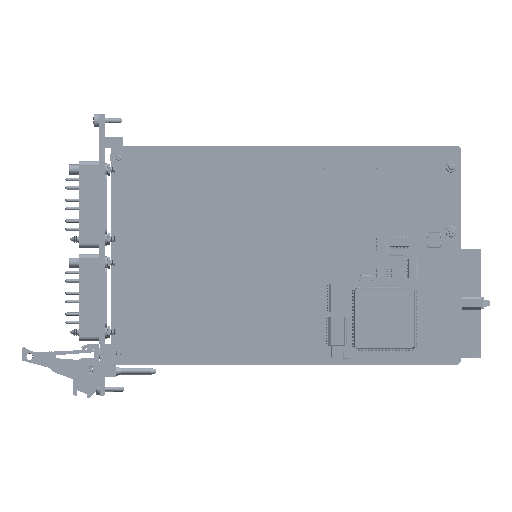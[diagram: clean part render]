
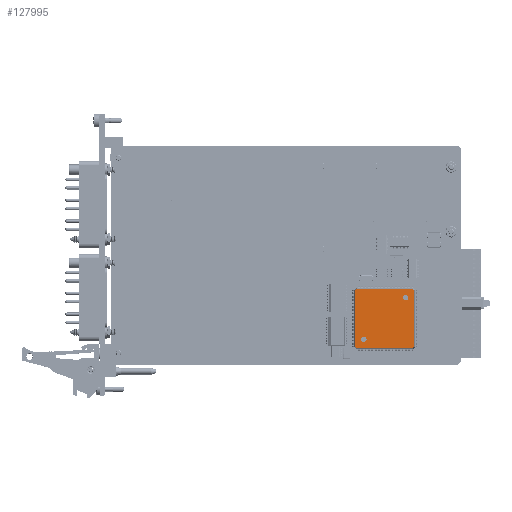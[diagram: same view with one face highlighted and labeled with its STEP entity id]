
A CAD part, top view. The second image highlights one B-rep face of the part: STEP entity #127995.
In plain terms, the highlighted planar face has unit normal (0, 0, 1) as drawn and (0, 1, 0) by its records, which use the part's own axes.
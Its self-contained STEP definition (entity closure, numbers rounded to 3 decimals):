
#423 = CARTESIAN_POINT ( 'NONE',  ( 12.811, 1.7, 13.544 ) ) ;
#5040 = LINE ( 'NONE', #25691, #137467 ) ;
#5469 = CARTESIAN_POINT ( 'NONE',  ( -9.544, 1.7, 9.544 ) ) ;
#8455 = CIRCLE ( 'NONE', #164589, 1.249 ) ;
#8738 = DIRECTION ( 'NONE',  ( -0.707, 0., -0.707 ) ) ;
#12822 = CARTESIAN_POINT ( 'NONE',  ( 12.811, 1.7, -13.544 ) ) ;
#21239 = EDGE_CURVE ( 'NONE', #208349, #300458, #138402, .T. ) ;
#24651 = VECTOR ( 'NONE', #39162, 1000. ) ;
#25691 = CARTESIAN_POINT ( 'NONE',  ( -12.678, 1.7, -13.678 ) ) ;
#30927 = LINE ( 'NONE', #267638, #102795 ) ;
#32675 = DIRECTION ( 'NONE',  ( 0., -1., 0. ) ) ;
#33377 = VERTEX_POINT ( 'NONE', #12822 ) ;
#39162 = DIRECTION ( 'NONE',  ( 0., 0., 1. ) ) ;
#39905 = VECTOR ( 'NONE', #92392, 1000. ) ;
#42830 = CARTESIAN_POINT ( 'NONE',  ( 13.544, 1.7, 13. ) ) ;
#44269 = VERTEX_POINT ( 'NONE', #192512 ) ;
#44353 = LINE ( 'NONE', #42830, #260480 ) ;
#46629 = CARTESIAN_POINT ( 'NONE',  ( 9.544, 1.7, -8.294 ) ) ;
#47967 = AXIS2_PLACEMENT_3D ( 'NONE', #244477, #58319, #222374 ) ;
#48586 = PLANE ( 'NONE',  #69998 ) ;
#48915 = CARTESIAN_POINT ( 'NONE',  ( -9.544, 1.7, 9.544 ) ) ;
#49797 = DIRECTION ( 'NONE',  ( 0., -1., 0. ) ) ;
#51701 = CARTESIAN_POINT ( 'NONE',  ( 27., 1.7, 0. ) ) ;
#53013 = LINE ( 'NONE', #130096, #137494 ) ;
#56969 = AXIS2_PLACEMENT_3D ( 'NONE', #223548, #32675, #296181 ) ;
#57776 = LINE ( 'NONE', #202819, #59654 ) ;
#58319 = DIRECTION ( 'NONE',  ( 0., -1., 0. ) ) ;
#59450 = LINE ( 'NONE', #207620, #281574 ) ;
#59531 = ORIENTED_EDGE ( 'NONE', *, *, #291844, .T. ) ;
#59654 = VECTOR ( 'NONE', #105008, 1000. ) ;
#61860 = CIRCLE ( 'NONE', #243531, 1.249 ) ;
#66857 = ORIENTED_EDGE ( 'NONE', *, *, #128279, .T. ) ;
#69998 = AXIS2_PLACEMENT_3D ( 'NONE', #51701, #147799, #312055 ) ;
#70588 = EDGE_LOOP ( 'NONE', ( #59531, #252560, #161524, #285905, #66857, #187227, #230771, #190384 ) ) ;
#83093 = EDGE_LOOP ( 'NONE', ( #108838, #250548 ) ) ;
#90570 = VERTEX_POINT ( 'NONE', #92260 ) ;
#92260 = CARTESIAN_POINT ( 'NONE',  ( -9.544, 1.7, 8.296 ) ) ;
#92392 = DIRECTION ( 'NONE',  ( 0.707, 0., 0.707 ) ) ;
#93988 = EDGE_CURVE ( 'NONE', #109710, #307433, #53013, .T. ) ;
#94301 = FACE_BOUND ( 'NONE', #83093, .T. ) ;
#97713 = DIRECTION ( 'NONE',  ( 0., -1., 0. ) ) ;
#98958 = FACE_OUTER_BOUND ( 'NONE', #70588, .T. ) ;
#101713 = DIRECTION ( 'NONE',  ( 0., 0., -1. ) ) ;
#102795 = VECTOR ( 'NONE', #8738, 1000. ) ;
#105008 = DIRECTION ( 'NONE',  ( 0.707, 0., -0.707 ) ) ;
#108838 = ORIENTED_EDGE ( 'NONE', *, *, #158661, .T. ) ;
#109710 = VERTEX_POINT ( 'NONE', #279030 ) ;
#111083 = CARTESIAN_POINT ( 'NONE',  ( 9.544, 1.7, -10.794 ) ) ;
#114724 = CARTESIAN_POINT ( 'NONE',  ( -13.544, 1.7, 13. ) ) ;
#114781 = ORIENTED_EDGE ( 'NONE', *, *, #126912, .T. ) ;
#116035 = LINE ( 'NONE', #212259, #39905 ) ;
#120484 = EDGE_CURVE ( 'NONE', #123177, #208349, #5040, .T. ) ;
#123177 = VERTEX_POINT ( 'NONE', #157014 ) ;
#125428 = DIRECTION ( 'NONE',  ( 1., 0., 0. ) ) ;
#126912 = EDGE_CURVE ( 'NONE', #250996, #90570, #8455, .T. ) ;
#127995 = ADVANCED_FACE ( 'NONE', ( #310514, #98958, #94301 ), #48586, .T. ) ;
#128279 = EDGE_CURVE ( 'NONE', #300458, #109710, #116035, .T. ) ;
#130096 = CARTESIAN_POINT ( 'NONE',  ( -13., 1.7, 13.544 ) ) ;
#131942 = DIRECTION ( 'NONE',  ( -1., 0., 0. ) ) ;
#137467 = VECTOR ( 'NONE', #172352, 1000. ) ;
#137494 = VECTOR ( 'NONE', #125428, 1000. ) ;
#138402 = LINE ( 'NONE', #114724, #24651 ) ;
#142736 = EDGE_CURVE ( 'NONE', #33377, #123177, #59450, .T. ) ;
#144930 = EDGE_LOOP ( 'NONE', ( #114781, #238692 ) ) ;
#146603 = DIRECTION ( 'NONE',  ( 0., 0., -1. ) ) ;
#147799 = DIRECTION ( 'NONE',  ( 0., 1., 0. ) ) ;
#152601 = CIRCLE ( 'NONE', #56969, 1.25 ) ;
#153628 = CARTESIAN_POINT ( 'NONE',  ( -9.544, 1.7, 10.793 ) ) ;
#157014 = CARTESIAN_POINT ( 'NONE',  ( -12.811, 1.7, -13.544 ) ) ;
#158661 = EDGE_CURVE ( 'NONE', #271970, #240567, #274680, .T. ) ;
#161524 = ORIENTED_EDGE ( 'NONE', *, *, #120484, .T. ) ;
#164589 = AXIS2_PLACEMENT_3D ( 'NONE', #48915, #97713, #146603 ) ;
#172352 = DIRECTION ( 'NONE',  ( -0.707, 0., 0.707 ) ) ;
#184673 = EDGE_CURVE ( 'NONE', #240567, #271970, #152601, .T. ) ;
#187227 = ORIENTED_EDGE ( 'NONE', *, *, #93988, .T. ) ;
#190384 = ORIENTED_EDGE ( 'NONE', *, *, #249480, .T. ) ;
#192512 = CARTESIAN_POINT ( 'NONE',  ( 13.544, 1.7, 12.811 ) ) ;
#202819 = CARTESIAN_POINT ( 'NONE',  ( 12.678, 1.7, 13.678 ) ) ;
#207620 = CARTESIAN_POINT ( 'NONE',  ( -13., 1.7, -13.544 ) ) ;
#208349 = VERTEX_POINT ( 'NONE', #275448 ) ;
#212259 = CARTESIAN_POINT ( 'NONE',  ( -12.678, 1.7, 13.678 ) ) ;
#222374 = DIRECTION ( 'NONE',  ( 0., 0., -1. ) ) ;
#223548 = CARTESIAN_POINT ( 'NONE',  ( 9.544, 1.7, -9.544 ) ) ;
#230771 = ORIENTED_EDGE ( 'NONE', *, *, #235519, .T. ) ;
#232999 = CARTESIAN_POINT ( 'NONE',  ( 13.544, 1.7, -12.811 ) ) ;
#235519 = EDGE_CURVE ( 'NONE', #307433, #44269, #57776, .T. ) ;
#238692 = ORIENTED_EDGE ( 'NONE', *, *, #289247, .T. ) ;
#240567 = VERTEX_POINT ( 'NONE', #111083 ) ;
#243312 = VERTEX_POINT ( 'NONE', #232999 ) ;
#243531 = AXIS2_PLACEMENT_3D ( 'NONE', #5469, #49797, #101713 ) ;
#244477 = CARTESIAN_POINT ( 'NONE',  ( 9.544, 1.7, -9.544 ) ) ;
#249480 = EDGE_CURVE ( 'NONE', #44269, #243312, #44353, .T. ) ;
#250548 = ORIENTED_EDGE ( 'NONE', *, *, #184673, .T. ) ;
#250996 = VERTEX_POINT ( 'NONE', #153628 ) ;
#252560 = ORIENTED_EDGE ( 'NONE', *, *, #142736, .T. ) ;
#258857 = DIRECTION ( 'NONE',  ( 0., 0., -1. ) ) ;
#260480 = VECTOR ( 'NONE', #258857, 1000. ) ;
#267638 = CARTESIAN_POINT ( 'NONE',  ( 12.678, 1.7, -13.678 ) ) ;
#271970 = VERTEX_POINT ( 'NONE', #46629 ) ;
#274680 = CIRCLE ( 'NONE', #47967, 1.25 ) ;
#275448 = CARTESIAN_POINT ( 'NONE',  ( -13.544, 1.7, -12.811 ) ) ;
#279030 = CARTESIAN_POINT ( 'NONE',  ( -12.811, 1.7, 13.544 ) ) ;
#281574 = VECTOR ( 'NONE', #131942, 1000. ) ;
#285905 = ORIENTED_EDGE ( 'NONE', *, *, #21239, .T. ) ;
#289247 = EDGE_CURVE ( 'NONE', #90570, #250996, #61860, .T. ) ;
#291844 = EDGE_CURVE ( 'NONE', #243312, #33377, #30927, .T. ) ;
#296181 = DIRECTION ( 'NONE',  ( 0., 0., -1. ) ) ;
#300458 = VERTEX_POINT ( 'NONE', #304106 ) ;
#304106 = CARTESIAN_POINT ( 'NONE',  ( -13.544, 1.7, 12.811 ) ) ;
#307433 = VERTEX_POINT ( 'NONE', #423 ) ;
#310514 = FACE_BOUND ( 'NONE', #144930, .T. ) ;
#312055 = DIRECTION ( 'NONE',  ( 0., 0., 1. ) ) ;
